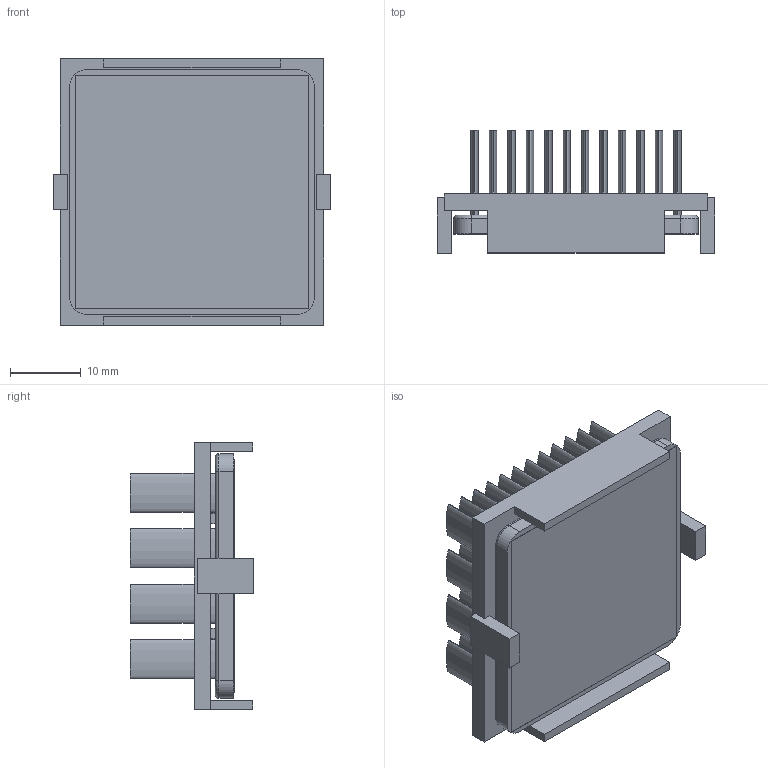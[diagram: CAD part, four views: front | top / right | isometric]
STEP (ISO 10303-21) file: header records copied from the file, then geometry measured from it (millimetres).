
FILE_DESCRIPTION (( 'STEP AP214' ), '1' );
FILE_NAME ('INM35001-15W-2.6K29.STEP', '2023-02-20T22:53:41', ( '' ), ( '' ), 'SwSTEP 2.0', 'SolidWorks 2020', '' );
FILE_SCHEMA (( 'AUTOMOTIVE_DESIGN' ));
Length unit declared in the file: inch
Products named in the file (1): INM35001-15W-2.6K29
Bounding box: 39.2 x 17.4 x 37.7 mm (x, y, z)
Volume: 7625 mm3; surface area: 14147 mm2
Topology: 3 solids, 3 shells, 222 faces, 496 edges, 328 vertices
Faces by surface type: plane 114, bspline 96, cylinder 8, torus 4
Entity records: 9276 total; most frequent: CARTESIAN_POINT 2295, ORIENTED_EDGE 992, DIRECTION 578, EDGE_CURVE 496, VERTEX_POINT 328, VECTOR 284, LINE 284, EDGE_LOOP 272
